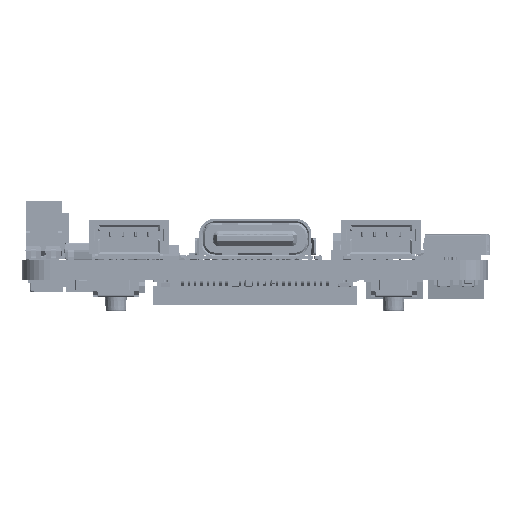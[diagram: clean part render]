
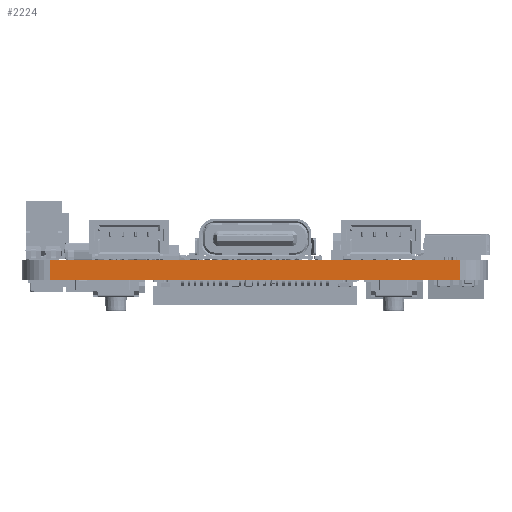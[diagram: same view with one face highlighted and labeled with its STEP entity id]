
A CAD part, front view. The second image highlights one B-rep face of the part: STEP entity #2224.
In plain terms, the highlighted planar face has unit normal (0, -1, 0).
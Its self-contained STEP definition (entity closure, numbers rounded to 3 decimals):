
#237=DIRECTION('',(0.,0.,-1.));
#238=VECTOR('',#237,1.601);
#239=CARTESIAN_POINT('',(34.8,-0.011,1.601));
#240=LINE('',#239,#238);
#244=DIRECTION('',(0.,0.,-1.));
#245=VECTOR('',#244,1.601);
#246=CARTESIAN_POINT('',(2.2,0.,1.601));
#247=LINE('',#246,#245);
#489=DIRECTION('',(1.,0.,0.));
#490=VECTOR('',#489,32.6);
#491=CARTESIAN_POINT('',(2.2,0.,1.601));
#492=LINE('',#491,#490);
#863=DIRECTION('',(1.,0.,0.));
#864=VECTOR('',#863,32.6);
#865=CARTESIAN_POINT('',(2.2,0.,0.));
#866=LINE('',#865,#864);
#1549=CARTESIAN_POINT('',(2.2,0.,1.601));
#1550=VERTEX_POINT('',#1549);
#1551=CARTESIAN_POINT('',(2.2,0.,0.));
#1552=VERTEX_POINT('',#1551);
#1553=CARTESIAN_POINT('',(34.8,-0.011,1.601));
#1554=VERTEX_POINT('',#1553);
#1555=CARTESIAN_POINT('',(34.8,-0.011,0.));
#1556=VERTEX_POINT('',#1555);
#2210=CARTESIAN_POINT('',(2.2,0.,0.));
#2211=DIRECTION('',(0.,1.,0.));
#2212=DIRECTION('',(1.,0.,0.));
#2213=AXIS2_PLACEMENT_3D('',#2210,#2211,#2212);
#2214=PLANE('',#2213);
#2216=ORIENTED_EDGE('',*,*,#2215,.F.);
#2218=ORIENTED_EDGE('',*,*,#2217,.T.);
#2219=ORIENTED_EDGE('',*,*,#2200,.T.);
#2221=ORIENTED_EDGE('',*,*,#2220,.F.);
#2222=EDGE_LOOP('',(#2216,#2218,#2219,#2221));
#2223=FACE_OUTER_BOUND('',#2222,.F.);
#2224=ADVANCED_FACE('',(#2223),#2214,.F.);
#2200=EDGE_CURVE('',#1554,#1556,#240,.T.);
#2215=EDGE_CURVE('',#1550,#1552,#247,.T.);
#2217=EDGE_CURVE('',#1550,#1554,#492,.T.);
#2220=EDGE_CURVE('',#1552,#1556,#866,.T.);
